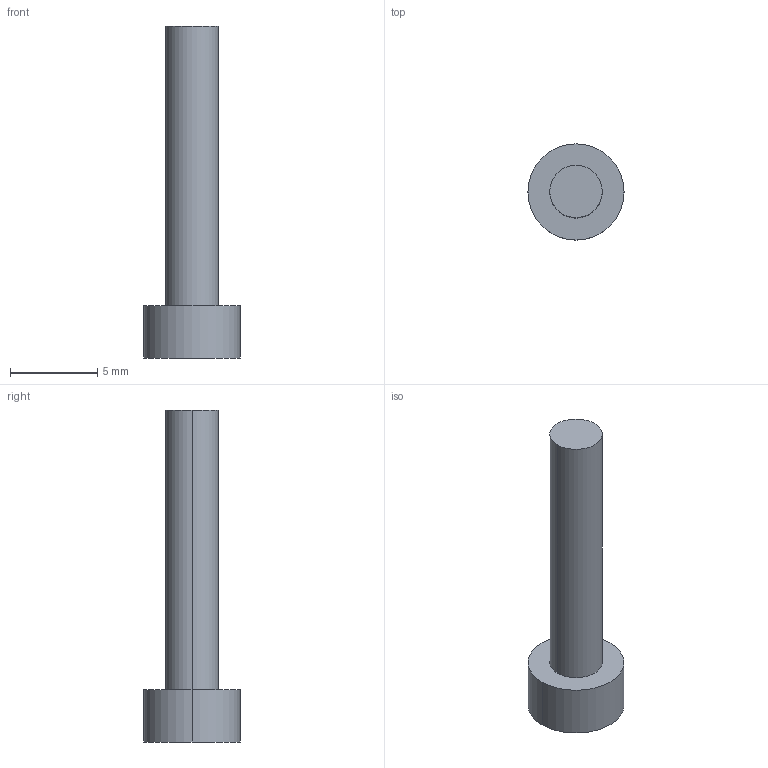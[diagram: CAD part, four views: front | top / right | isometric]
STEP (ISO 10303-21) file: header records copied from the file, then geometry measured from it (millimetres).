
FILE_DESCRIPTION (( 'STEP AP203' ), '1' );
FILE_NAME ('REF_M3x16_screw.step', '2026-10-15T10:09:18', ( '' ), ( '' ), 'SwSTEP 2.0', 'SolidWorks 2025', '' );
FILE_SCHEMA (( 'CONFIG_CONTROL_DESIGN' ));
Length unit declared in the file: millimetre
Products named in the file (1): REF_M3x16_screw
Bounding box: 5.5 x 5.5 x 19 mm (x, y, z)
Volume: 184.4 mm3; surface area: 250.1 mm2
Topology: 1 solids, 1 shells, 7 faces, 12 edges, 8 vertices
Faces by surface type: cylinder 4, plane 3
Entity records: 251 total; most frequent: DIRECTION 36, CARTESIAN_POINT 28, ORIENTED_EDGE 24, AXIS2_PLACEMENT_3D 16, EDGE_CURVE 12, CIRCLE 8, PERSON_AND_ORGANIZATION 8, EDGE_LOOP 8
